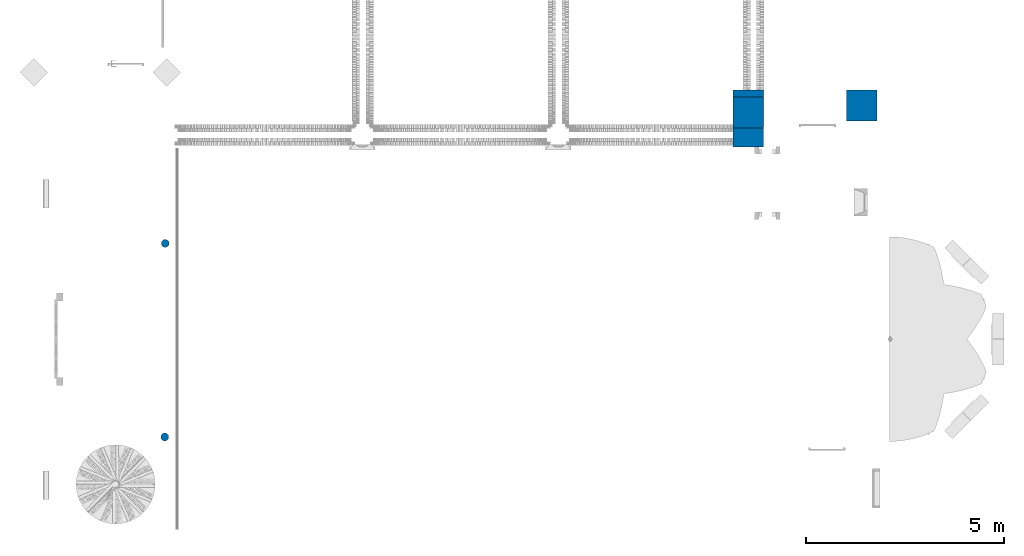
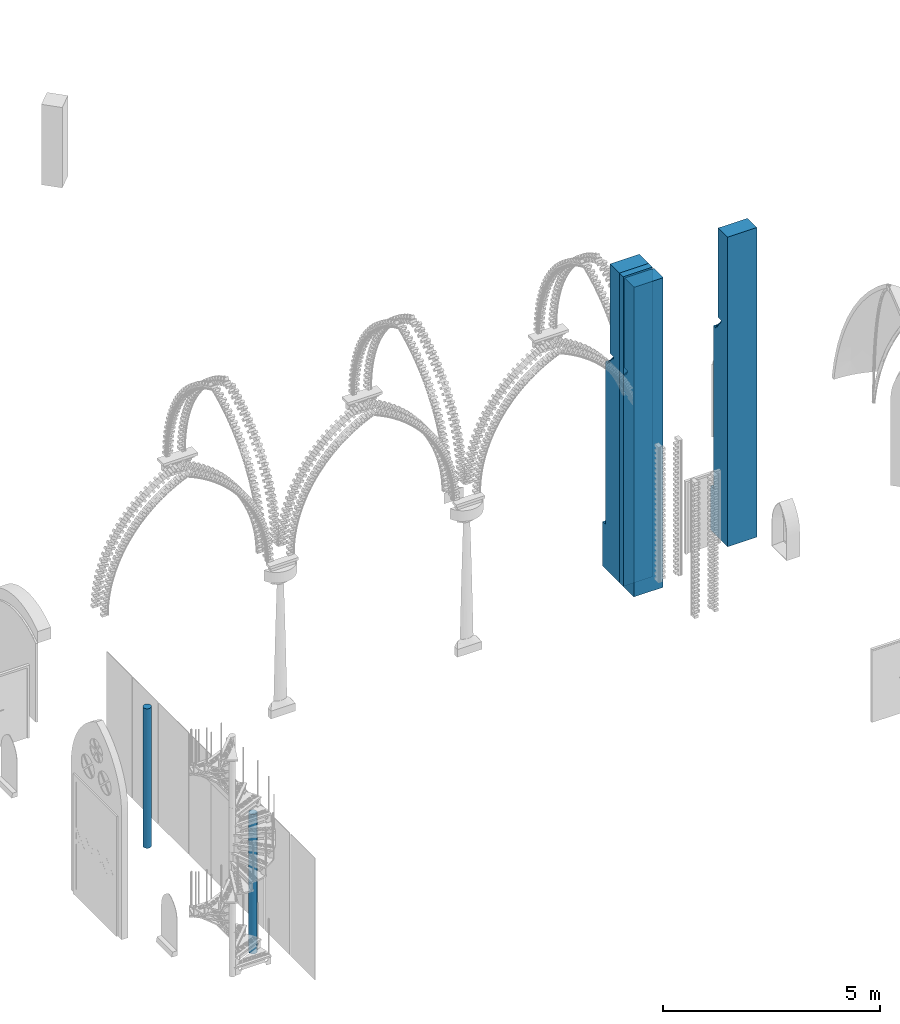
# One storey, part 1 of 6: 6 walls, 2 columns, 12 openings.
"""IFC2X3 building model written with IfcOpenShell, lengths in metres."""

from ifc_helpers import new_model, entity, si_unit, converted_unit, derived_unit, direction, frame, frame_2d, origin, origin_2d_with_axis, place, context, subcontext, project, spatial, polyline, rectangle, circle, outline, extrude, clip, halfspace, source, transform, mapped, material, layer, layer_set, layer_usage, type_object, type_shapes, element, save


model = new_model("IFC2X3")

# Units and contexts
model_context = context("Model", 3, precision=1e-05, world=origin(), true_north=direction((6.12303176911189e-17, 1.0)))
plan_context = context("Plan", 3, precision=1e-05, world=origin(), true_north=direction((6.12303176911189e-17, 1.0)))
body_context = subcontext(model_context, "Body", "Model", "MODEL_VIEW")
ifc_project = project(units=[si_unit("LENGTHUNIT", "METRE"), si_unit("AREAUNIT", "SQUARE_METRE"), si_unit("VOLUMEUNIT", "CUBIC_METRE"), converted_unit("PLANEANGLEUNIT", "DEGREE", entity("IfcRatioMeasure", 0.0174532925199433), si_unit("PLANEANGLEUNIT", "RADIAN"), dimensions=[0, 0, 0, 0, 0, 0, 0]), si_unit("MASSUNIT", "GRAM", prefix="KILO"), derived_unit("MASSDENSITYUNIT", [(si_unit("MASSUNIT", "GRAM", prefix="KILO"), 1), (si_unit("LENGTHUNIT", "METRE"), -3)]), derived_unit("MOMENTOFINERTIAUNIT", [(si_unit("LENGTHUNIT", "METRE"), 4)]), si_unit("TIMEUNIT", "SECOND"), si_unit("FREQUENCYUNIT", "HERTZ"), si_unit("THERMODYNAMICTEMPERATUREUNIT", "DEGREE_CELSIUS"), derived_unit("THERMALTRANSMITTANCEUNIT", [(si_unit("MASSUNIT", "GRAM", prefix="KILO"), 1), (si_unit("THERMODYNAMICTEMPERATUREUNIT", "KELVIN"), -1), (si_unit("TIMEUNIT", "SECOND"), -3)]), derived_unit("VOLUMETRICFLOWRATEUNIT", [(si_unit("LENGTHUNIT", "METRE"), 3), (si_unit("TIMEUNIT", "SECOND"), -1)]), derived_unit("MASSFLOWRATEUNIT", [(si_unit("MASSUNIT", "GRAM", prefix="KILO"), 1), (si_unit("TIMEUNIT", "SECOND"), -1)]), derived_unit("ROTATIONALFREQUENCYUNIT", [(si_unit("TIMEUNIT", "SECOND"), -1)]), si_unit("ELECTRICCURRENTUNIT", "AMPERE"), si_unit("ELECTRICVOLTAGEUNIT", "VOLT"), si_unit("POWERUNIT", "WATT"), si_unit("FORCEUNIT", "NEWTON", prefix="KILO"), si_unit("ILLUMINANCEUNIT", "LUX"), si_unit("LUMINOUSFLUXUNIT", "LUMEN"), si_unit("LUMINOUSINTENSITYUNIT", "CANDELA"), derived_unit("USERDEFINED", [(si_unit("MASSUNIT", "GRAM", prefix="KILO"), -1), (si_unit("LENGTHUNIT", "METRE"), -2), (si_unit("TIMEUNIT", "SECOND"), 3), (si_unit("LUMINOUSFLUXUNIT", "LUMEN"), 1)]), derived_unit("SOUNDPOWERUNIT", [(si_unit("MASSUNIT", "GRAM", prefix="KILO"), 1), (si_unit("LENGTHUNIT", "METRE"), 2), (si_unit("TIMEUNIT", "SECOND"), -3)]), derived_unit("SOUNDPRESSUREUNIT", [(si_unit("MASSUNIT", "GRAM", prefix="KILO"), 1), (si_unit("LENGTHUNIT", "METRE"), -1), (si_unit("TIMEUNIT", "SECOND"), -2)]), derived_unit("LINEARVELOCITYUNIT", [(si_unit("LENGTHUNIT", "METRE"), 1), (si_unit("TIMEUNIT", "SECOND"), -1)]), si_unit("PRESSUREUNIT", "PASCAL"), derived_unit("USERDEFINED", [(si_unit("LENGTHUNIT", "METRE"), -2), (si_unit("MASSUNIT", "GRAM", prefix="KILO"), 1), (si_unit("TIMEUNIT", "SECOND"), -2)]), derived_unit("LINEARFORCEUNIT", [(si_unit("MASSUNIT", "GRAM", prefix="KILO"), 1), (si_unit("LENGTHUNIT", "METRE"), 1), (si_unit("TIMEUNIT", "SECOND"), -2), (si_unit("LENGTHUNIT", "METRE"), -1)]), derived_unit("PLANARFORCEUNIT", [(si_unit("MASSUNIT", "GRAM", prefix="KILO"), 1), (si_unit("LENGTHUNIT", "METRE"), 1), (si_unit("TIMEUNIT", "SECOND"), -2), (si_unit("LENGTHUNIT", "METRE"), -2)])], contexts=[model_context, plan_context])

# Site, building, storey
site_placement = place(None, frame((-11.0823275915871, 23.8300534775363, 0.0)))
site = spatial("IfcSite", under=ifc_project, at=site_placement, Name="Default", CompositionType="ELEMENT")
building_placement = place(site_placement, origin())
building = spatial("IfcBuilding", under=site, at=building_placement, Name="Englische Kirche", CompositionType="ELEMENT")
storey_placement = place(building_placement, origin())
storey = spatial("IfcBuildingStorey", under=building, at=storey_placement, Name="Ebene 0 Nave FFL Phase 1 1864", CompositionType="ELEMENT", Elevation=0.0)

# Columns
ifc_material_1 = material(Name="Ortbeton - bewehrt Verputzt")
column_type_1 = type_object("IfcColumnType", Name="STB Stütze - rund:STB ø200", PredefinedType="COLUMN", material=ifc_material_1)
shared_shape_1 = source(origin(), body_context, "Body", "SweptSolid", [
    extrude(circle(Radius=0.1, at=origin_2d_with_axis()), frame((2.68545737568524, 7.2769809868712, -0.5), z_axis=(0.0, 0.0, 1.0), x_axis=(-1.0, 0.0, 0.0)), (0.0, 0.0, 1.0), 3.925),
])
type_shapes(column_type_1, [shared_shape_1])
column_1_placement = place(storey_placement, origin())
element("IfcColumn", 1, at=column_1_placement, inside=storey, type_object=column_type_1, material=ifc_material_1, Name="STB Stütze - rund:STB ø200", ObjectType="STB Stütze - rund:STB ø200", context=body_context, shape_type="MappedRepresentation", body=[
    mapped(shared_shape_1, transform((0.0, 0.0, 0.0), scale=1.0)),
])
column_type_2 = type_object("IfcColumnType", Name="STB Stütze - rund:STB ø200", PredefinedType="COLUMN", material=ifc_material_1)
shared_shape_2 = source(origin(), body_context, "Body", "SweptSolid", [
    extrude(circle(Radius=0.1, at=frame_2d((-7.32875762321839e-31, 2.70716782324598e-16), x_axis=(1.0, 0.0))), frame((2.67545276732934, 2.3769809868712, -0.5), z_axis=(0.0, 0.0, 1.0), x_axis=(-1.0, 0.0, 0.0)), (0.0, 0.0, 1.0), 3.925),
])
type_shapes(column_type_2, [shared_shape_2])
column_2_placement = place(storey_placement, origin())
element("IfcColumn", 2, at=column_2_placement, inside=storey, type_object=column_type_2, material=ifc_material_1, Name="STB Stütze - rund:STB ø200", ObjectType="STB Stütze - rund:STB ø200", context=body_context, shape_type="MappedRepresentation", body=[
    mapped(shared_shape_2, transform((0.0, 0.0, 0.0), scale=1.0)),
])

# Wall, openings
ifc_material_2 = material(Name="Mauerwerk - Sichtmauerwerk_72x265 english bond")
ifc_layer = layer(ifc_material_2, 0.78)
ifc_layer_set = layer_set([ifc_layer], Name="Basiswand:Ziegel 780 72x265 English bond Stage 1 Main pier test")
ifc_layer_usage_1 = layer_usage(ifc_layer_set, "AXIS2", "POSITIVE", -0.39)
wall_type = type_object("IfcWallType", Name="Basiswand:Ziegel 780 72x265 English bond Stage 1 Main pier test", PredefinedType="STANDARD", material=ifc_layer_set)
wall_1_placement = place(storey_placement, frame((17.4389870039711, 10.1997240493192, 0.0), z_axis=(0.0, 0.0, 1.0), x_axis=(1.94707183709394e-07, 0.999999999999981, 0.0)))
wall_1 = element("IfcWallStandardCase", 3, at=wall_1_placement, inside=storey, type_object=wall_type, material=ifc_layer_usage_1, Name="Basiswand:Ziegel 780 72x265 English bond Stage 1 Main pier test", ObjectType="Basiswand:Ziegel 780 72x265 English bond Stage 1 Main pier test", context=body_context, shape_type="Clipping", body=[
    clip(clip(extrude(rectangle(XDim=0.780000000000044, YDim=0.78, at=frame_2d((0.390000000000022, 5.27355936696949e-16), x_axis=(-1.0, 0.0))), origin(), (0.0, 0.0, 1.0), 8.714), halfspace(frame((0.780000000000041, 0.0, 1.24899100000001), z_axis=(0.99960129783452, 0.0, 0.0282355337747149), x_axis=(0.0, 1.0, 0.0)), False)), halfspace(frame((0.650488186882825, 0.0, 5.834), z_axis=(0.997094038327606, 0.0, 0.0761805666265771), x_axis=(0.0, 1.0, 0.0)), False)),
])
opening_1_placement = place(wall_1_placement, origin())
element("IfcOpeningElement", 4, at=opening_1_placement, cuts=wall_1, Name="Basiswand:Ziegel 780 72x265 English bond Stage 1 Main pier test", ObjectType="Opening", context=body_context, shape_type="SweptSolid", body=[
    extrude(outline(polyline([(-0.403208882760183, -0.189069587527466), (2.48518467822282, -0.189069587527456), (-0.0274922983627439, 0.00290544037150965), (-0.0167538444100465, 0.143456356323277), (-0.0885446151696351, 0.14894135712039), (-0.0931154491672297, 0.0891157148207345), (-0.164906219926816, 0.0946007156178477), (-0.169477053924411, 0.0347750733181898), (-0.241267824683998, 0.0402600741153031), (-0.245838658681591, -0.0195655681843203), (-0.318008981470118, -0.014051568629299), (-0.322579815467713, -0.0738772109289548), (-0.393991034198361, -0.0684212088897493), (-0.403208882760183, -0.189069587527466)])), frame((0.43125134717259, 0.389999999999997, 6.22163374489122), z_axis=(0.0, -1.0, 0.0), x_axis=(-0.0761805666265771, 0.0, 0.997094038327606)), (0.0, 0.0, 1.0), 0.78),
])
opening_2_placement = place(wall_1_placement, origin())
element("IfcOpeningElement", 5, at=opening_2_placement, cuts=wall_1, Name="Basiswand:Ziegel 780 72x265 English bond Stage 1 Main pier test", ObjectType="Opening", context=body_context, shape_type="SweptSolid", body=[
    extrude(outline(polyline([(-1.53016487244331, -0.043153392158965), (3.05667290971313, -0.0431533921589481), (-1.52650803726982, 0.0863067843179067), (-1.53016487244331, -0.043153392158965)])), frame((0.693658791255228, 0.390000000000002, 2.77732733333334), z_axis=(0.0, -1.0, 0.0), x_axis=(-0.0282355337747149, 0.0, 0.99960129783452)), (0.0, 0.0, 1.0), 0.78),
])

ifc_layer_usage_2 = layer_usage(ifc_layer_set, "AXIS2", "POSITIVE", -0.39)
wall_2_placement = place(storey_placement, frame((17.4389870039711, 10.1997240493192, 0.0), z_axis=(0.0, 0.0, 1.0), x_axis=(1.94707183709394e-07, 0.999999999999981, 0.0)))
wall_2 = element("IfcWallStandardCase", 6, at=wall_2_placement, inside=storey, type_object=wall_type, material=ifc_layer_usage_2, Name="Basiswand:Ziegel 780 72x265 English bond Stage 1 Main pier test", ObjectType="Basiswand:Ziegel 780 72x265 English bond Stage 1 Main pier test", context=body_context, shape_type="Clipping", body=[
    clip(clip(extrude(rectangle(XDim=0.780000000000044, YDim=0.78, at=frame_2d((0.390000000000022, 5.27355936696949e-16), x_axis=(-1.0, 0.0))), origin(), (0.0, 0.0, 1.0), 8.714), halfspace(frame((0.780000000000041, 0.0, 1.24899100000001), z_axis=(0.99960129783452, 0.0, 0.0282355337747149), x_axis=(0.0, 1.0, 0.0)), False)), halfspace(frame((0.650488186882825, 0.0, 5.834), z_axis=(0.997094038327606, 0.0, 0.0761805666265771), x_axis=(0.0, 1.0, 0.0)), False)),
])
opening_3_placement = place(wall_2_placement, origin())
element("IfcOpeningElement", 7, at=opening_3_placement, cuts=wall_2, Name="Basiswand:Ziegel 780 72x265 English bond Stage 1 Main pier test", ObjectType="Opening", context=body_context, shape_type="SweptSolid", body=[
    extrude(outline(polyline([(-0.403208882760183, -0.189069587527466), (2.48518467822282, -0.189069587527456), (-0.0274922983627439, 0.00290544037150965), (-0.0167538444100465, 0.143456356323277), (-0.0885446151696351, 0.14894135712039), (-0.0931154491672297, 0.0891157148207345), (-0.164906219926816, 0.0946007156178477), (-0.169477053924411, 0.0347750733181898), (-0.241267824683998, 0.0402600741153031), (-0.245838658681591, -0.0195655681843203), (-0.318008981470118, -0.014051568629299), (-0.322579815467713, -0.0738772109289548), (-0.393991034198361, -0.0684212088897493), (-0.403208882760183, -0.189069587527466)])), frame((0.43125134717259, 0.389999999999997, 6.22163374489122), z_axis=(0.0, -1.0, 0.0), x_axis=(-0.0761805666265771, 0.0, 0.997094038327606)), (0.0, 0.0, 1.0), 0.78),
])
opening_4_placement = place(wall_2_placement, origin())
element("IfcOpeningElement", 8, at=opening_4_placement, cuts=wall_2, Name="Basiswand:Ziegel 780 72x265 English bond Stage 1 Main pier test", ObjectType="Opening", context=body_context, shape_type="SweptSolid", body=[
    extrude(outline(polyline([(-1.53016487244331, -0.043153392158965), (3.05667290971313, -0.0431533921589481), (-1.52650803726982, 0.0863067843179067), (-1.53016487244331, -0.043153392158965)])), frame((0.693658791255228, 0.390000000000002, 2.77732733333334), z_axis=(0.0, -1.0, 0.0), x_axis=(-0.0282355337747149, 0.0, 0.99960129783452)), (0.0, 0.0, 1.0), 0.78),
])

ifc_layer_usage_3 = layer_usage(ifc_layer_set, "AXIS2", "POSITIVE", -0.39)
wall_3_placement = place(storey_placement, frame((17.4389870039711, 9.7103784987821, 0.0), z_axis=(0.0, 0.0, 1.0), x_axis=(1.94707183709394e-07, 0.999999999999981, 0.0)))
wall_3 = element("IfcWallStandardCase", 9, at=wall_3_placement, inside=storey, type_object=wall_type, material=ifc_layer_usage_3, Name="Basiswand:Ziegel 780 72x265 English bond Stage 1 Main pier test", ObjectType="Basiswand:Ziegel 780 72x265 English bond Stage 1 Main pier test", context=body_context, shape_type="Clipping", body=[
    clip(clip(extrude(rectangle(XDim=0.780000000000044, YDim=0.78, at=frame_2d((0.390000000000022, 5.27355936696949e-16), x_axis=(-1.0, 0.0))), origin(), (0.0, 0.0, 1.0), 8.714), halfspace(frame((0.780000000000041, 0.0, 1.24899100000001), z_axis=(0.99960129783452, 0.0, 0.0282355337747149), x_axis=(0.0, 1.0, 0.0)), False)), halfspace(frame((0.650488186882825, 0.0, 5.834), z_axis=(0.997094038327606, 0.0, 0.0761805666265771), x_axis=(0.0, 1.0, 0.0)), False)),
])
opening_5_placement = place(wall_3_placement, origin())
element("IfcOpeningElement", 10, at=opening_5_placement, cuts=wall_3, Name="Basiswand:Ziegel 780 72x265 English bond Stage 1 Main pier test", ObjectType="Opening", context=body_context, shape_type="SweptSolid", body=[
    extrude(outline(polyline([(-0.403208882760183, -0.189069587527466), (2.48518467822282, -0.189069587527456), (-0.0274922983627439, 0.00290544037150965), (-0.0167538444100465, 0.143456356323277), (-0.0885446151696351, 0.14894135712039), (-0.0931154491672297, 0.0891157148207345), (-0.164906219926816, 0.0946007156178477), (-0.169477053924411, 0.0347750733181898), (-0.241267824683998, 0.0402600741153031), (-0.245838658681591, -0.0195655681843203), (-0.318008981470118, -0.014051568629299), (-0.322579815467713, -0.0738772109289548), (-0.393991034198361, -0.0684212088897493), (-0.403208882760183, -0.189069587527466)])), frame((0.43125134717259, 0.389999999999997, 6.22163374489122), z_axis=(0.0, -1.0, 0.0), x_axis=(-0.0761805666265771, 0.0, 0.997094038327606)), (0.0, 0.0, 1.0), 0.78),
])
opening_6_placement = place(wall_3_placement, origin())
element("IfcOpeningElement", 11, at=opening_6_placement, cuts=wall_3, Name="Basiswand:Ziegel 780 72x265 English bond Stage 1 Main pier test", ObjectType="Opening", context=body_context, shape_type="SweptSolid", body=[
    extrude(outline(polyline([(-1.53016487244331, -0.043153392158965), (3.05667290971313, -0.0431533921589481), (-1.52650803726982, 0.0863067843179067), (-1.53016487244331, -0.043153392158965)])), frame((0.693658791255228, 0.390000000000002, 2.77732733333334), z_axis=(0.0, -1.0, 0.0), x_axis=(-0.0282355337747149, 0.0, 0.99960129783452)), (0.0, 0.0, 1.0), 0.78),
])

ifc_layer_usage_4 = layer_usage(ifc_layer_set, "AXIS2", "POSITIVE", -0.39)
wall_4_placement = place(storey_placement, frame((17.4389870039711, 10.373979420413, 0.0), z_axis=(0.0, 0.0, 1.0), x_axis=(1.94707183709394e-07, 0.999999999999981, 0.0)))
wall_4 = element("IfcWallStandardCase", 12, at=wall_4_placement, inside=storey, type_object=wall_type, material=ifc_layer_usage_4, Name="Basiswand:Ziegel 780 72x265 English bond Stage 1 Main pier test", ObjectType="Basiswand:Ziegel 780 72x265 English bond Stage 1 Main pier test", context=body_context, shape_type="Clipping", body=[
    clip(clip(extrude(rectangle(XDim=0.780000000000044, YDim=0.78, at=frame_2d((0.390000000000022, 5.27355936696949e-16), x_axis=(-1.0, 0.0))), origin(), (0.0, 0.0, 1.0), 8.714), halfspace(frame((0.780000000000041, 0.0, 1.24899100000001), z_axis=(0.99960129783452, 0.0, 0.0282355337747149), x_axis=(0.0, 1.0, 0.0)), False)), halfspace(frame((0.650488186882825, 0.0, 5.834), z_axis=(0.997094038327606, 0.0, 0.0761805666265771), x_axis=(0.0, 1.0, 0.0)), False)),
])
opening_7_placement = place(wall_4_placement, origin())
element("IfcOpeningElement", 13, at=opening_7_placement, cuts=wall_4, Name="Basiswand:Ziegel 780 72x265 English bond Stage 1 Main pier test", ObjectType="Opening", context=body_context, shape_type="SweptSolid", body=[
    extrude(outline(polyline([(-0.403208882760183, -0.189069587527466), (2.48518467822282, -0.189069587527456), (-0.0274922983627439, 0.00290544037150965), (-0.0167538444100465, 0.143456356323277), (-0.0885446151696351, 0.14894135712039), (-0.0931154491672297, 0.0891157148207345), (-0.164906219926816, 0.0946007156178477), (-0.169477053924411, 0.0347750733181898), (-0.241267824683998, 0.0402600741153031), (-0.245838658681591, -0.0195655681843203), (-0.318008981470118, -0.014051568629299), (-0.322579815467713, -0.0738772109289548), (-0.393991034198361, -0.0684212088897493), (-0.403208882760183, -0.189069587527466)])), frame((0.43125134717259, 0.389999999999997, 6.22163374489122), z_axis=(0.0, -1.0, 0.0), x_axis=(-0.0761805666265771, 0.0, 0.997094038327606)), (0.0, 0.0, 1.0), 0.78),
])
opening_8_placement = place(wall_4_placement, origin())
element("IfcOpeningElement", 14, at=opening_8_placement, cuts=wall_4, Name="Basiswand:Ziegel 780 72x265 English bond Stage 1 Main pier test", ObjectType="Opening", context=body_context, shape_type="SweptSolid", body=[
    extrude(outline(polyline([(-1.53016487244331, -0.043153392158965), (3.05667290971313, -0.0431533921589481), (-1.52650803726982, 0.0863067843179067), (-1.53016487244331, -0.043153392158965)])), frame((0.693658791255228, 0.390000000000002, 2.77732733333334), z_axis=(0.0, -1.0, 0.0), x_axis=(-0.0282355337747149, 0.0, 0.99960129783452)), (0.0, 0.0, 1.0), 0.78),
])

ifc_layer_usage_5 = layer_usage(ifc_layer_set, "AXIS2", "POSITIVE", -0.39)
wall_5_placement = place(storey_placement, frame((17.4389870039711, 10.373979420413, 0.0), z_axis=(0.0, 0.0, 1.0), x_axis=(1.94707183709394e-07, 0.999999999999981, 0.0)))
wall_5 = element("IfcWallStandardCase", 15, at=wall_5_placement, inside=storey, type_object=wall_type, material=ifc_layer_usage_5, Name="Basiswand:Ziegel 780 72x265 English bond Stage 1 Main pier test", ObjectType="Basiswand:Ziegel 780 72x265 English bond Stage 1 Main pier test", context=body_context, shape_type="Clipping", body=[
    clip(clip(extrude(rectangle(XDim=0.780000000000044, YDim=0.78, at=frame_2d((0.390000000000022, 5.27355936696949e-16), x_axis=(-1.0, 0.0))), origin(), (0.0, 0.0, 1.0), 8.714), halfspace(frame((0.780000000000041, 0.0, 1.24899100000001), z_axis=(0.99960129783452, 0.0, 0.0282355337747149), x_axis=(0.0, 1.0, 0.0)), False)), halfspace(frame((0.650488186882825, 0.0, 5.834), z_axis=(0.997094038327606, 0.0, 0.0761805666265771), x_axis=(0.0, 1.0, 0.0)), False)),
])
opening_9_placement = place(wall_5_placement, origin())
element("IfcOpeningElement", 16, at=opening_9_placement, cuts=wall_5, Name="Basiswand:Ziegel 780 72x265 English bond Stage 1 Main pier test", ObjectType="Opening", context=body_context, shape_type="SweptSolid", body=[
    extrude(outline(polyline([(-0.403208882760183, -0.189069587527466), (2.48518467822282, -0.189069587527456), (-0.0274922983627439, 0.00290544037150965), (-0.0167538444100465, 0.143456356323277), (-0.0885446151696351, 0.14894135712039), (-0.0931154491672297, 0.0891157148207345), (-0.164906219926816, 0.0946007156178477), (-0.169477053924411, 0.0347750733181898), (-0.241267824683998, 0.0402600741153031), (-0.245838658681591, -0.0195655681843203), (-0.318008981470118, -0.014051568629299), (-0.322579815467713, -0.0738772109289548), (-0.393991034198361, -0.0684212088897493), (-0.403208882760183, -0.189069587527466)])), frame((0.43125134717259, 0.389999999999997, 6.22163374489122), z_axis=(0.0, -1.0, 0.0), x_axis=(-0.0761805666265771, 0.0, 0.997094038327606)), (0.0, 0.0, 1.0), 0.78),
])
opening_10_placement = place(wall_5_placement, origin())
element("IfcOpeningElement", 17, at=opening_10_placement, cuts=wall_5, Name="Basiswand:Ziegel 780 72x265 English bond Stage 1 Main pier test", ObjectType="Opening", context=body_context, shape_type="SweptSolid", body=[
    extrude(outline(polyline([(-1.53016487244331, -0.043153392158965), (3.05667290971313, -0.0431533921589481), (-1.52650803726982, 0.0863067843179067), (-1.53016487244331, -0.043153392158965)])), frame((0.693658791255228, 0.390000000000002, 2.77732733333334), z_axis=(0.0, -1.0, 0.0), x_axis=(-0.0282355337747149, 0.0, 0.99960129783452)), (0.0, 0.0, 1.0), 0.78),
])

ifc_layer_usage_6 = layer_usage(ifc_layer_set, "AXIS2", "POSITIVE", -0.39)
wall_6_placement = place(storey_placement, frame((20.3128754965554, 10.373979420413, 0.0025031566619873), z_axis=(0.0, 0.0, 1.0), x_axis=(1.94707183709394e-07, 0.999999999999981, 0.0)))
wall_6 = element("IfcWallStandardCase", 18, at=wall_6_placement, inside=storey, type_object=wall_type, material=ifc_layer_usage_6, Name="Basiswand:Ziegel 780 72x265 English bond Stage 1 Main pier test", ObjectType="Basiswand:Ziegel 780 72x265 English bond Stage 1 Main pier test", context=body_context, shape_type="Clipping", body=[
    clip(clip(extrude(rectangle(XDim=0.780000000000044, YDim=0.78, at=frame_2d((0.390000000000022, 5.27355936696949e-16), x_axis=(-1.0, 0.0))), origin(), (0.0, 0.0, 1.0), 8.714), halfspace(frame((0.780000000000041, 0.0, 1.24899100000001), z_axis=(0.99960129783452, 0.0, 0.0282355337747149), x_axis=(0.0, 1.0, 0.0)), False)), halfspace(frame((0.650488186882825, 0.0, 5.834), z_axis=(0.997094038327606, 0.0, 0.0761805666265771), x_axis=(0.0, 1.0, 0.0)), False)),
])
opening_11_placement = place(wall_6_placement, origin())
element("IfcOpeningElement", 19, at=opening_11_placement, cuts=wall_6, Name="Basiswand:Ziegel 780 72x265 English bond Stage 1 Main pier test", ObjectType="Opening", context=body_context, shape_type="SweptSolid", body=[
    extrude(outline(polyline([(-0.403208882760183, -0.189069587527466), (2.48518467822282, -0.189069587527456), (-0.0274922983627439, 0.00290544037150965), (-0.0167538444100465, 0.143456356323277), (-0.0885446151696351, 0.14894135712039), (-0.0931154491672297, 0.0891157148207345), (-0.164906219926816, 0.0946007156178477), (-0.169477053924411, 0.0347750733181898), (-0.241267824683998, 0.0402600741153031), (-0.245838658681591, -0.0195655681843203), (-0.318008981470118, -0.014051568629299), (-0.322579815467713, -0.0738772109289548), (-0.393991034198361, -0.0684212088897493), (-0.403208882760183, -0.189069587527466)])), frame((0.43125134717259, 0.389999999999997, 6.22163374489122), z_axis=(0.0, -1.0, 0.0), x_axis=(-0.0761805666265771, 0.0, 0.997094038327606)), (0.0, 0.0, 1.0), 0.78),
])
opening_12_placement = place(wall_6_placement, origin())
element("IfcOpeningElement", 20, at=opening_12_placement, cuts=wall_6, Name="Basiswand:Ziegel 780 72x265 English bond Stage 1 Main pier test", ObjectType="Opening", context=body_context, shape_type="SweptSolid", body=[
    extrude(outline(polyline([(-1.53016487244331, -0.043153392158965), (3.05667290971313, -0.0431533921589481), (-1.52650803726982, 0.0863067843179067), (-1.53016487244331, -0.043153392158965)])), frame((0.693658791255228, 0.390000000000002, 2.77732733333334), z_axis=(0.0, -1.0, 0.0), x_axis=(-0.0282355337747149, 0.0, 0.99960129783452)), (0.0, 0.0, 1.0), 0.78),
])

save(model, "model.ifc")
